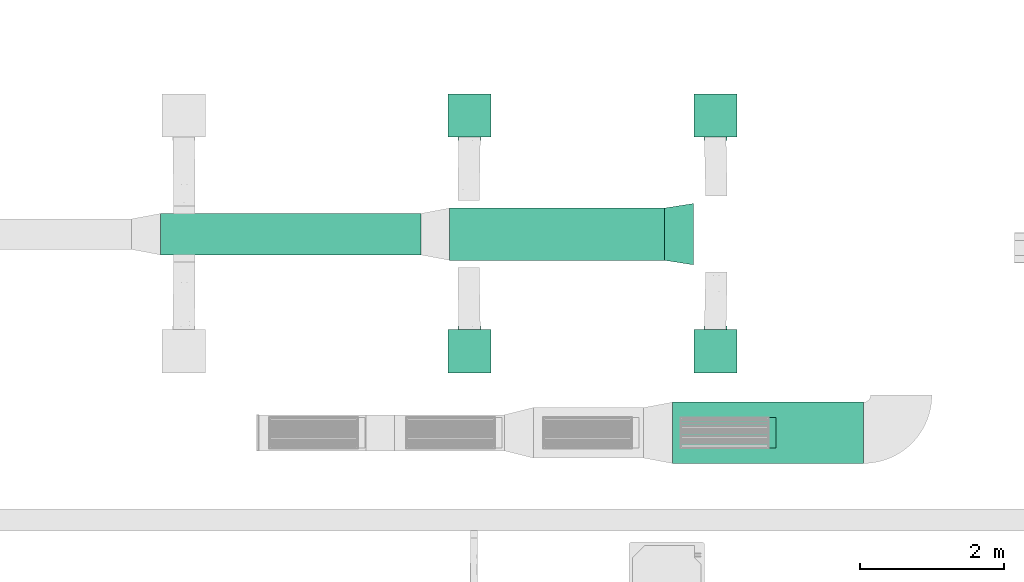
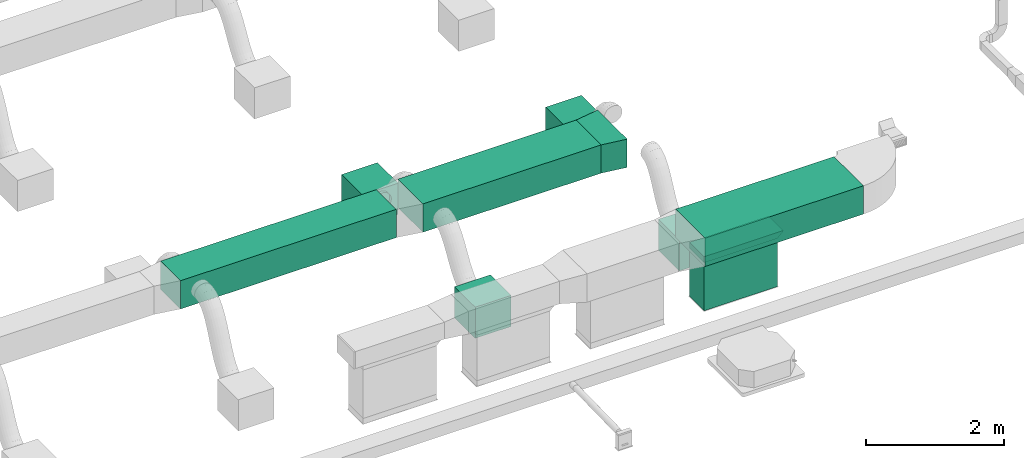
# One storey, part 6 of 60: 4 flow segments, 4 flow terminals, 2 flow fittings.
"""IFC2X3 building model written with IfcOpenShell, lengths in millimetres."""

import ifcopenshell
import ifcopenshell.guid

model = None  # the IFC model being written
_history = None  # IfcOwnerHistory: only IFC2X3 demands one
_inside = {}  # id of a spatial element -> (the spatial element, [elements in it])
_under = {}  # id of a project, library or spatial element -> (it, [spatial elements below it])
_declared = {}  # id of a project -> (the project, [libraries it declares])
_typed = {}  # id of a type object -> (the type object, [elements of that type])
_made_of = {}  # id of a material, layer set ... -> (it, [elements and type objects made of it])


def new_model(schema):
    """Start an empty IFC model of exactly this schema.

    Asked for "IFC4X3", IfcOpenShell would pick the latest addendum, in which some entities
    have other attributes; the version numbers below select the first issue.
    IFC2X3 requires an IfcOwnerHistory on every rooted entity: one is made here for all.
    """
    global model, _history
    if schema == "IFC4X3":
        model = ifcopenshell.file(schema_version=(4, 3, 0, 0))
    else:
        model = ifcopenshell.file(schema=schema)
    _inside.clear()
    _under.clear()
    _declared.clear()
    _typed.clear()
    _made_of.clear()
    _history = None
    if model.schema == "IFC2X3":
        org = make("IfcOrganization", Name="unknown")
        user = make(
            "IfcPersonAndOrganization",
            ThePerson=make("IfcPerson", FamilyName="unknown"),
            TheOrganization=org,
        )
        app = make(
            "IfcApplication",
            ApplicationDeveloper=org,
            Version="unknown",
            ApplicationFullName="unknown",
            ApplicationIdentifier="unknown",
        )
        _history = make(
            "IfcOwnerHistory",
            OwningUser=user,
            OwningApplication=app,
            ChangeAction="ADDED",
            CreationDate=0,
        )
    return model


def make(cls, **values):
    """One entity of the class cls with the attributes given. An attribute that is None is left unset."""
    return model.create_entity(
        cls, **{name: value for name, value in values.items() if value is not None}
    )


def entity(cls, *values):
    """Any entity or typed value of the class cls, its attributes in the order of the schema. None: left unset."""
    e = model.create_entity(cls)
    for i, value in enumerate(values):
        if value is not None:
            e[i] = value
    return e


def rooted(cls, **values):
    """An entity with a GlobalId (a new one), such as an element, a storey or a relation."""
    return make(cls, GlobalId=ifcopenshell.guid.new(), OwnerHistory=_history, **values)


def si_unit(unit_type, name, prefix=None):
    """IfcSIUnit, for example si_unit("LENGTHUNIT", "METRE", prefix="MILLI")."""
    return make("IfcSIUnit", UnitType=unit_type, Prefix=prefix, Name=name)


def converted_unit(unit_type, name, factor, base, dimensions=None, offset=None):
    """IfcConversionBasedUnit, such as the inch: factor (a typed value) times the base unit."""
    return make(
        "IfcConversionBasedUnit"
        if offset is None
        else "IfcConversionBasedUnitWithOffset",
        ConversionOffset=offset,
        Dimensions=None
        if dimensions is None
        else entity("IfcDimensionalExponents", *dimensions),
        UnitType=unit_type,
        Name=name,
        ConversionFactor=make(
            "IfcMeasureWithUnit", ValueComponent=factor, UnitComponent=base
        ),
    )


def derived_unit(unit_type, elements):
    """IfcDerivedUnit: a product of units, each with its exponent."""
    return make(
        "IfcDerivedUnit",
        Elements=[
            make("IfcDerivedUnitElement", Unit=unit, Exponent=power)
            for unit, power in elements
        ],
        UnitType=unit_type,
    )


def assignment(units):
    """IfcUnitAssignment: the units of a project."""
    return None if units is None else make("IfcUnitAssignment", Units=units)


def point(xyz):
    """IfcCartesianPoint."""
    return None if xyz is None else make("IfcCartesianPoint", Coordinates=xyz)


def direction(xyz):
    """IfcDirection."""
    return None if xyz is None else make("IfcDirection", DirectionRatios=xyz)


def frame(location, z_axis=None, x_axis=None):
    """IfcAxis2Placement3D, a coordinate frame: its origin and axes. An axis left out is left unset."""
    return make(
        "IfcAxis2Placement3D",
        Location=point(location),
        Axis=direction(z_axis),
        RefDirection=direction(x_axis),
    )


def frame_2d(location, x_axis=None):
    """IfcAxis2Placement2D, a coordinate frame in the plane: its origin and x axis."""
    return make(
        "IfcAxis2Placement2D", Location=point(location), RefDirection=direction(x_axis)
    )


def origin():
    """The frame at (0, 0, 0) with its axes left unset."""
    return frame((0.0, 0.0, 0.0))


def origin_2d_with_axis():
    """The frame at (0, 0) in the plane with the x axis (1, 0) written out."""
    return frame_2d((0.0, 0.0), x_axis=(1.0, 0.0))


def place(relative_to, where):
    """IfcLocalPlacement: puts the frame where relative to a parent placement (None: the world)."""
    return make(
        "IfcLocalPlacement", PlacementRelTo=relative_to, RelativePlacement=where
    )


def context(
    kind, dimensions, precision=None, world=None, true_north=None, identifier=None
):
    """IfcGeometricRepresentationContext, for example the 3D "Model" context."""
    return make(
        "IfcGeometricRepresentationContext",
        ContextIdentifier=identifier,
        ContextType=kind,
        CoordinateSpaceDimension=dimensions,
        Precision=precision,
        WorldCoordinateSystem=world,
        TrueNorth=true_north,
    )


def subcontext(parent, identifier, kind, view, scale=None):
    """IfcGeometricRepresentationSubContext, for example "Body" below "Model"."""
    return make(
        "IfcGeometricRepresentationSubContext",
        ContextIdentifier=identifier,
        ContextType=kind,
        ParentContext=parent,
        TargetScale=scale,
        TargetView=view,
    )


def project(units=None, contexts=None):
    """IfcProject with its units and contexts."""
    return rooted(
        "IfcProject",
        Name="project",
        RepresentationContexts=contexts,
        UnitsInContext=assignment(units),
    )


def spatial(cls, under=None, at=None, **own):
    """A site, building, storey or space (cls), placed at a placement, below another one or the project."""
    s = rooted(cls, ObjectPlacement=at, **own)
    if under is not None:
        _under.setdefault(under.id(), (under, []))[1].append(s)
    return s


def polyline(points):
    """IfcPolyline through the points."""
    return make("IfcPolyline", Points=[point(p) for p in points])


def profile(cls, at=None, kind="AREA", **sizes):
    """A parametric profile (cls). Its sizes go by their IFC names, for example OverallWidth=200.0."""
    return make(cls, ProfileType=kind, Position=at, **sizes)


def rectangle(**sizes):
    """IfcRectangleProfileDef."""
    return profile("IfcRectangleProfileDef", **sizes)


def outline(outer, holes=None, kind="AREA"):
    """IfcArbitraryClosedProfileDef: a profile drawn as a closed curve; with holes, ...WithVoids."""
    if holes is None:
        return make("IfcArbitraryClosedProfileDef", ProfileType=kind, OuterCurve=outer)
    return make(
        "IfcArbitraryProfileDefWithVoids",
        ProfileType=kind,
        OuterCurve=outer,
        InnerCurves=holes,
    )


def extrude(swept, where, along, depth):
    """IfcExtrudedAreaSolid: the profile swept, set in the frame where, extruded along a direction by depth."""
    return make(
        "IfcExtrudedAreaSolid",
        SweptArea=swept,
        Position=where,
        ExtrudedDirection=direction(along),
        Depth=depth,
    )


def faces_of(points, faces, orient=None, outer=None):
    """IfcFace entities. A face is a list of loops; a loop is a list of indices into points, from 0.

    orient and outer hold one flag for each loop. By default every Orientation is true, the
    first loop of a face is its IfcFaceOuterBound and the others are IfcFaceBound.
    """
    made = []
    for i, loops in enumerate(faces):
        bounds = []
        for j, loop in enumerate(loops):
            is_outer = j == 0 if outer is None else outer[i][j]
            bounds.append(
                make(
                    "IfcFaceOuterBound" if is_outer else "IfcFaceBound",
                    Bound=make("IfcPolyLoop", Polygon=[points[k] for k in loop]),
                    Orientation=True if orient is None else orient[i][j],
                )
            )
        made.append(make("IfcFace", Bounds=bounds))
    return made


def face_set(faces, orient=None, outer=None):
    """The faces of one IfcConnectedFaceSet. surface_model builds it on its shared points."""
    return ("IfcConnectedFaceSet", faces, orient, outer)


def surface_model(cls, points, shells):
    """IfcFaceBasedSurfaceModel or IfcShellBasedSurfaceModel (cls): surfaces that need not close."""
    shared = [point(p) for p in points]
    made = [make(c, CfsFaces=faces_of(shared, fs, o, b)) for c, fs, o, b in shells]
    if cls == "IfcFaceBasedSurfaceModel":
        return make(cls, FbsmFaces=made)
    return make(cls, SbsmBoundary=made)


def shape(context_of_items, identifier, shape_type, items):
    """IfcShapeRepresentation: the items that make up one representation, for example the "Body"."""
    return make(
        "IfcShapeRepresentation",
        ContextOfItems=context_of_items,
        RepresentationIdentifier=identifier,
        RepresentationType=shape_type,
        Items=items,
    )


def source(mapping_origin, context_of_items, identifier, shape_type, items):
    """IfcRepresentationMap: a shape defined once, which mapped items show again and again."""
    return make(
        "IfcRepresentationMap",
        MappingOrigin=mapping_origin,
        MappedRepresentation=shape(context_of_items, identifier, shape_type, items),
    )


def transform(
    local_origin,
    x_axis=None,
    y_axis=None,
    z_axis=None,
    scale=None,
    scale2=None,
    scale3=None,
    uniform=True,
):
    """IfcCartesianTransformationOperator3D, or its non-uniform kind. x_axis, y_axis, z_axis: its Axis1, 2, 3."""
    if uniform:
        return make(
            "IfcCartesianTransformationOperator3D",
            Axis1=direction(x_axis),
            Axis2=direction(y_axis),
            LocalOrigin=point(local_origin),
            Scale=scale,
            Axis3=direction(z_axis),
        )
    return make(
        "IfcCartesianTransformationOperator3DnonUniform",
        Axis1=direction(x_axis),
        Axis2=direction(y_axis),
        LocalOrigin=point(local_origin),
        Scale=scale,
        Axis3=direction(z_axis),
        Scale2=scale2,
        Scale3=scale3,
    )


def mapped(mapping_source, mapping_target):
    """IfcMappedItem: shows the shape of a source again, moved by a transform."""
    return make(
        "IfcMappedItem", MappingSource=mapping_source, MappingTarget=mapping_target
    )


def material(Name=None, Category=None):
    """IfcMaterial."""
    return make("IfcMaterial", Name=Name, Category=Category)


def made_of(thing, what):
    """Note that an element or type object is made of a material, layer set ...; save() writes the relation."""
    if what is not None:
        _made_of.setdefault(what.id(), (what, []))[1].append(thing)
    return thing


def type_object(cls, material=None, **own):
    """A type object (cls), such as IfcWallType, which elements share."""
    return made_of(rooted(cls, **own), material)


def type_shapes(of_type, sources):
    """Give a type object the sources (RepresentationMaps) that its elements show as mapped items."""
    of_type.RepresentationMaps = sources


def element(
    cls,
    number,
    at=None,
    inside=None,
    cuts=None,
    type_object=None,
    material=None,
    context=None,
    identifier="Body",
    shape_type=None,
    held_by="IfcProductDefinitionShape",
    body=None,
    shapes=None,
    **own,
):
    """One element of the class cls, such as IfcWall. Its Tag is "e" and its number.

    at: its placement. inside: the storey or other place that contains it. cuts: it is an
    opening in that element (IfcRelVoidsElement). A single representation is given by context,
    identifier, shape_type and body (its items); several are given by shapes. held_by: the class
    of the entity that holds the representations. save() writes the other relations.
    """
    e = rooted(cls, Tag="e%d" % number, ObjectPlacement=at, **own)
    if body is not None:
        shapes = [shape(context, identifier, shape_type, body)]
    if shapes is not None:
        e.Representation = make(held_by, Representations=shapes)
    if inside is not None:
        _inside.setdefault(inside.id(), (inside, []))[1].append(e)
    if cuts is not None:
        rooted(
            "IfcRelVoidsElement", RelatingBuildingElement=cuts, RelatedOpeningElement=e
        )
    if type_object is not None:
        _typed.setdefault(type_object.id(), (type_object, []))[1].append(e)
    return made_of(e, material)


def aggregate(whole, parts):
    """IfcRelAggregates: a whole, such as a stair, and the parts it consists of."""
    return rooted("IfcRelAggregates", RelatingObject=whole, RelatedObjects=parts)


def save(model, path):
    """Write the relations noted so far, then the file.

    IfcRelAggregates (storeys below a building ...), IfcRelContainedInSpatialStructure (elements
    in a storey), IfcRelDefinesByType, IfcRelAssociatesMaterial and IfcRelDeclares: one each for
    every whole, place, type object, material and project.
    """
    for whole, parts in _under.values():
        aggregate(whole, parts)
    for where, things in _inside.values():
        rooted(
            "IfcRelContainedInSpatialStructure",
            RelatedElements=things,
            RelatingStructure=where,
        )
    for kind, things in _typed.values():
        rooted("IfcRelDefinesByType", RelatedObjects=things, RelatingType=kind)
    for what, things in _made_of.values():
        rooted("IfcRelAssociatesMaterial", RelatedObjects=things, RelatingMaterial=what)
    for by, libraries in _declared.values():
        rooted("IfcRelDeclares", RelatingContext=by, RelatedDefinitions=libraries)
    model.write(path)


model = new_model("IFC2X3")

# Units and contexts
model_context = context("Model", 3, precision=0.01, world=origin(), true_north=direction((6.123233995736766e-17, 1.0)))
body_context = subcontext(model_context, "Body", "Model", "MODEL_VIEW")
ifc_project = project(units=[si_unit("LENGTHUNIT", "METRE", prefix="MILLI"), converted_unit("PLANEANGLEUNIT", "DEGREE", entity("IfcPlaneAngleMeasure", 0.017453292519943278), si_unit("PLANEANGLEUNIT", "RADIAN"), dimensions=[0, 0, 0, 0, 0, 0, 0]), si_unit("AREAUNIT", "SQUARE_METRE"), derived_unit("THERMALTRANSMITTANCEUNIT", [(si_unit("MASSUNIT", "GRAM", prefix="KILO"), 1), (si_unit("THERMODYNAMICTEMPERATUREUNIT", "KELVIN"), -1), (si_unit("TIMEUNIT", "SECOND"), -3)])], contexts=[model_context])

# Site, building, storey
site_placement = place(None, origin())
site = spatial("IfcSite", under=ifc_project, at=site_placement, Name="Default", CompositionType="ELEMENT")
building_placement = place(site_placement, origin())
building = spatial("IfcBuilding", under=site, at=building_placement, Name="Praça Pedro II, 1301 - Centro (Sul), Teresina - PI, 64001-100", CompositionType="ELEMENT")
storey_placement = place(building_placement, frame((0.0, 0.0, 6040.0)))
storey = spatial("IfcBuildingStorey", under=building, at=storey_placement, Name="2PAV", CompositionType="ELEMENT", Elevation=6040.0)

# Flow terminals
ifc_material = material(Name="<Unnamed>")
air_terminal_type = type_object("IfcAirTerminalType", Name="VD-HM 600:VD-HM 600", PredefinedType="NOTDEFINED", material=ifc_material)
shared_shape_1 = source(origin(), body_context, "Body", "SurfaceModel", [
    surface_model("IfcFaceBasedSurfaceModel", [(280.24999051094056, 280.0000057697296, -0.099993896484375), (-279.75000286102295, 280.0000057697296, -0.099993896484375), (-279.75000286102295, -280.0000057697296, -0.099993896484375), (280.24999051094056, -280.0000057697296, -0.099993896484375), (-300.75001101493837, 0.0, 510.50001697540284), (-300.75001101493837, -30.726726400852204, 507.4736755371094), (-300.75001101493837, 0.0, 353.0000012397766), (-300.75001101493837, -60.27264279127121, 498.51103219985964), (-300.75001101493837, -87.50230793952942, 483.9564700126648), (-300.75001101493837, -111.3693195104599, 464.3693298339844), (-300.75001101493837, -130.95645968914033, 440.5023273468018), (-300.75001101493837, -145.51102187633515, 413.272630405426), (-300.75001101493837, -154.47367429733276, 383.7267230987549), (-300.75001101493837, -157.4999975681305, 353.0000012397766), (-300.75001101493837, -154.47367429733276, 322.27327938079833), (-300.75001101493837, -145.51102187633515, 292.7273539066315), (-300.75001101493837, -130.95645968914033, 265.4976933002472), (-300.75001101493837, -111.3693195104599, 241.63069081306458), (-300.75001101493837, -87.50230793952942, 222.04353246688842), (-300.75001101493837, -60.27264279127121, 207.4889702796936), (-300.75001101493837, -30.726726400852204, 198.52632694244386), (-300.75001101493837, 0.0, 195.5000036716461), (-300.75001101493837, 30.726726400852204, 198.52632694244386), (-300.75001101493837, 60.27264279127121, 207.4889702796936), (-300.75001101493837, 87.50230793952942, 222.04353246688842), (-300.75001101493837, 111.3693195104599, 241.63069081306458), (-300.75001101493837, 130.95645968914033, 265.4976933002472), (-300.75001101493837, 145.51102187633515, 292.7273539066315), (-300.75001101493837, 154.47367429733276, 322.27327938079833), (-300.75001101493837, 157.4999975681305, 353.0000012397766), (-300.75001101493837, 154.47367429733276, 383.7267230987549), (-300.75001101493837, 145.51102187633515, 413.272630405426), (-300.75001101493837, 130.95645968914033, 440.5023273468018), (-300.75001101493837, 111.3693195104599, 464.3693298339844), (-300.75001101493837, 87.50230793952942, 483.9564700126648), (-300.75001101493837, 60.27264279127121, 498.51103219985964), (-300.75001101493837, 30.726726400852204, 507.4736755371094), (300.24998703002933, 300.0000022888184, 550.000004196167), (300.24998703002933, 300.0000022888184, 0.0), (-299.7499993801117, 300.0000022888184, 0.0), (-299.7499993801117, 300.0000022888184, 550.000004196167), (300.24998703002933, -300.0000022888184, 550.000004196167), (300.24998703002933, -300.0000022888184, 0.0), (-299.7499993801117, -300.0000022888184, 550.000004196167), (-299.7499993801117, -300.0000022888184, 0.0), (280.24999051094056, 280.0000057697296, -0.099993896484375), (10.250000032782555, 280.0000057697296, -0.099993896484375), (10.250000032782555, 256.6173123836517, -13.600005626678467), (280.24999051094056, 256.6173123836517, -13.600005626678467), (280.24999051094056, 253.0, -0.099993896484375), (10.250000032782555, 253.0, -0.099993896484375), (10.250000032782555, 229.61732525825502, -13.600005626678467), (280.24999051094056, 229.61732525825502, -13.600005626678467), (280.24999051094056, 225.99999518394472, -0.099993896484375), (10.250000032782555, 225.99999518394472, -0.099993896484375), (10.250000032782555, 202.61731996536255, -13.600005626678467), (280.24999051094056, 202.61731996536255, -13.600005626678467), (280.24999051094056, 199.000008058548, -0.099993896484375), (10.250000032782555, 199.000008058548, -0.099993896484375), (10.250000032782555, 175.6173146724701, -13.600005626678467), (280.24999051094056, 175.6173146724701, -13.600005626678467), (280.24999051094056, 172.00000276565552, -0.099993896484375), (10.250000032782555, 172.00000276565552, -0.099993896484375), (10.250000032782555, 148.61731846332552, -13.600005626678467), (280.24999051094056, 148.61731846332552, -13.600005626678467), (280.24999051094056, 144.99999747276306, -0.099993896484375), (10.250000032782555, 144.99999747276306, -0.099993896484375), (10.250000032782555, 121.61731317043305, -13.600005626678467), (280.24999051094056, 121.61731317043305, -13.600005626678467), (280.24999051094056, 118.00000126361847, -0.099993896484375), (10.250000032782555, 118.00000126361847, -0.099993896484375), (280.24999051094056, 94.61731696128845, -13.600005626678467), (10.250000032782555, 94.61731696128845, -13.600005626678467), (280.24999051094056, 90.99999597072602, -0.099993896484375), (10.250000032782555, 90.99999597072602, -0.099993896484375), (280.24999051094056, 67.61731621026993, -13.600005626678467), (10.250000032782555, 67.61731621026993, -13.600005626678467), (280.24999051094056, 63.99999976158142, -0.099993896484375), (10.250000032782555, 63.99999976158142, -0.099993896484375), (10.250000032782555, 40.61731545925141, -13.600005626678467), (280.24999051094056, 40.61731545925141, -13.600005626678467), (280.24999051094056, 36.999999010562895, -0.099993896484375), (10.250000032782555, 36.999999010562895, -0.099993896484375), (10.250000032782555, 13.617316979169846, -13.600005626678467), (280.24999051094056, 13.617316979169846, -13.600005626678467), (-9.74999989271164, -256.6173123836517, -13.600005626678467), (-279.75000286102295, -256.6173123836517, -13.600005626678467), (-279.75000286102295, -280.0000057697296, -0.099993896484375), (-9.74999989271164, -280.0000057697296, -0.099993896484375), (-9.74999989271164, -229.61732525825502, -13.600005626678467), (-279.75000286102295, -229.61732525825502, -13.600005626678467), (-279.75000286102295, -253.0, -0.099993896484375), (-9.74999989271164, -253.0, -0.099993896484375), (-9.74999989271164, -202.61731996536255, -13.600005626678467), (-279.75000286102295, -202.61731996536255, -13.600005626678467), (-279.75000286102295, -225.99999518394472, -0.099993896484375), (-9.74999989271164, -225.99999518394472, -0.099993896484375), (-9.74999989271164, -175.6173146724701, -13.600005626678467), (-279.75000286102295, -175.6173146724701, -13.600005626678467), (-279.75000286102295, -199.000008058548, -0.099993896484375), (-9.74999989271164, -199.000008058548, -0.099993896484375), (-9.74999989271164, -148.61731846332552, -13.600005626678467), (-279.75000286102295, -148.61731846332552, -13.600005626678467), (-279.75000286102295, -172.00000276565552, -0.099993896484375), (-9.74999989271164, -172.00000276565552, -0.099993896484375), (-9.74999989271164, -121.61731317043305, -13.600005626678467), (-279.75000286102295, -121.61731317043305, -13.600005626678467), (-279.75000286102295, -144.99999747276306, -0.099993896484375), (-9.74999989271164, -144.99999747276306, -0.099993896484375), (-9.74999989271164, -94.61731696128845, -13.600005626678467), (-279.75000286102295, -94.61731696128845, -13.600005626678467), (-279.75000286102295, -118.00000126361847, -0.099993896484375), (-9.74999989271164, -118.00000126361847, -0.099993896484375), (-9.74999989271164, -67.61731621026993, -13.600005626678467), (-279.75000286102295, -67.61731621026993, -13.600005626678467), (-279.75000286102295, -90.99999597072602, -0.099993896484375), (-9.74999989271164, -90.99999597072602, -0.099993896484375), (-9.74999989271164, -40.61731545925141, -13.600005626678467), (-279.75000286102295, -40.61731545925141, -13.600005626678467), (-279.75000286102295, -63.99999976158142, -0.099993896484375), (-9.74999989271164, -63.99999976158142, -0.099993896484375), (-9.74999989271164, -13.617316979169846, -13.600005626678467), (-279.75000286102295, -13.617316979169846, -13.600005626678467), (-279.75000286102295, -36.999999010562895, -0.099993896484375), (-9.74999989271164, -36.999999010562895, -0.099993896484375), (280.24999051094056, -10.000000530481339, -0.099993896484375), (256.100465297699, -10.000000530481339, -12.174765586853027), (256.100465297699, -280.0000057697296, -12.174765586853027), (280.24999051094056, -280.0000057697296, -0.099993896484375), (253.25000338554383, -10.000000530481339, -0.099993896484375), (229.10046000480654, -10.000000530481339, -12.174765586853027), (229.10046000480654, -280.0000057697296, -12.174765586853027), (253.25000338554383, -280.0000057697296, -0.099993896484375), (226.24999809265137, -10.000000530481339, -0.099993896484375), (202.10045471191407, -10.000000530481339, -12.174765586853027), (202.10045471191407, -280.0000057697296, -12.174765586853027), (226.24999809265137, -280.0000057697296, -0.099993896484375), (199.24999279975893, -10.000000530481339, -0.099993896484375), (175.10046758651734, -10.000000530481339, -12.174765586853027), (175.10046758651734, -280.0000057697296, -12.174765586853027), (199.24999279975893, -280.0000057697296, -0.099993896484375), (172.24998750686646, -10.000000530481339, -0.099993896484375), (148.10046229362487, -10.000000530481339, -12.174765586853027), (148.10046229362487, -280.0000057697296, -12.174765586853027), (172.24998750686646, -280.0000057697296, -0.099993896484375), (145.25000038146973, -10.000000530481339, -0.099993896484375), (121.10046608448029, -10.000000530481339, -12.174765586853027), (121.10046608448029, -280.0000057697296, -12.174765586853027), (145.25000038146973, -280.0000057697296, -0.099993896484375), (118.24999508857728, -10.000000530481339, -0.099993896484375), (94.10046079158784, -10.000000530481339, -12.174765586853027), (94.10046079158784, -280.0000057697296, -12.174765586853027), (118.24999508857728, -280.0000057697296, -0.099993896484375), (91.24999887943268, -10.000000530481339, -0.099993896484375), (67.10046912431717, -10.000000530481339, -12.174765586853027), (67.10046912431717, -280.0000057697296, -12.174765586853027), (91.24999887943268, -280.0000057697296, -0.099993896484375), (64.24999812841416, -10.000000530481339, -0.099993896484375), (40.100468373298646, -10.000000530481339, -12.174765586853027), (40.100468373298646, -280.0000057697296, -12.174765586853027), (64.24999812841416, -280.0000057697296, -0.099993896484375), (37.250001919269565, -10.000000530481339, -0.099993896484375), (13.100466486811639, -10.000000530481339, -12.174765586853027), (13.100466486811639, -280.0000057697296, -12.174765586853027), (37.250001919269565, -280.0000057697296, -0.099993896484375), (-279.75000286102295, 10.000000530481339, -0.099993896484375), (-255.6004776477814, 10.000000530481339, -12.174765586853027), (-255.6004776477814, 280.0000057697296, -12.174765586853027), (-279.75000286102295, 280.0000057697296, -0.099993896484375), (-252.7499975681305, 10.000000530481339, -0.099993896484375), (-228.60047235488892, 10.000000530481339, -12.174765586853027), (-228.60047235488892, 280.0000057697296, -12.174765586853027), (-252.7499975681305, 280.0000057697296, -0.099993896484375), (-225.75001044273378, 10.000000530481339, -0.099993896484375), (-201.60046706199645, 10.000000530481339, -12.174765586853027), (-201.60046706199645, 280.0000057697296, -12.174765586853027), (-225.75001044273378, 280.0000057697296, -0.099993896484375), (-198.75000514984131, 10.000000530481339, -0.099993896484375), (-174.60046176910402, 10.000000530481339, -12.174765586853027), (-174.60046176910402, 280.0000057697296, -12.174765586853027), (-198.75000514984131, 280.0000057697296, -0.099993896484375), (-171.74999985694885, 10.000000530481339, -0.099993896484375), (-147.60046555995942, 10.000000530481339, -12.174765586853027), (-147.60046555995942, 280.0000057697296, -12.174765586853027), (-171.74999985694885, 280.0000057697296, -0.099993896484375), (-144.75000364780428, 10.000000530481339, -0.099993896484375), (-120.60046935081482, 10.000000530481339, -12.174765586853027), (-120.60046935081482, 280.0000057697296, -12.174765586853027), (-144.75000364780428, 280.0000057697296, -0.099993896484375), (-117.75000743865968, 10.000000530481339, -0.099993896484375), (-93.60046405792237, 10.000000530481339, -12.174765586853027), (-93.60046405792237, 280.0000057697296, -12.174765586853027), (-117.75000743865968, 280.0000057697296, -0.099993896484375), (-90.75000214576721, 10.000000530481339, -0.099993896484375), (-66.60046330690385, 10.000000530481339, -12.174765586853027), (-66.60046330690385, 280.0000057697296, -12.174765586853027), (-90.75000214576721, 280.0000057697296, -0.099993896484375), (-63.75000139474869, 10.000000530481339, -0.099993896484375), (-39.60046709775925, 10.000000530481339, -12.174765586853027), (-39.60046709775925, 280.0000057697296, -12.174765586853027), (-63.75000139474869, 280.0000057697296, -0.099993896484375), (-36.75000064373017, 10.000000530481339, -0.099993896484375), (-12.600466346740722, 10.000000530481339, -12.174765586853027), (-12.600466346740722, 280.0000057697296, -12.174765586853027), (-36.75000064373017, 280.0000057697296, -0.099993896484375), (-299.7499993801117, 0.0, 510.50001697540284), (-299.7499993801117, 30.726726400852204, 507.4736755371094), (-347.74999465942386, 30.726726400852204, 507.4736755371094), (-347.74999465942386, 0.0, 510.50001697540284), (-299.7499993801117, 60.27264279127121, 498.51103219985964), (-347.74999465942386, 60.27264279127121, 498.51103219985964), (-299.7499993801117, 87.50230793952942, 483.9564700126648), (-347.74999465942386, 87.50230793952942, 483.9564700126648), (-299.7499993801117, 111.3693195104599, 464.3693298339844), (-347.74999465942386, 111.3693195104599, 464.3693298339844), (-299.7499993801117, 130.95645968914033, 440.5023273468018), (-347.74999465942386, 130.95645968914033, 440.5023273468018), (-299.7499993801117, 145.51102187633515, 413.272630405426), (-347.74999465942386, 145.51102187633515, 413.272630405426), (-299.7499993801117, 154.47367429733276, 383.7267230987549), (-347.74999465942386, 154.47367429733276, 383.7267230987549), (-299.7499993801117, 157.4999975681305, 353.0000012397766), (-347.74999465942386, 157.4999975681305, 353.0000012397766), (-299.7499993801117, 154.47367429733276, 322.27327938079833), (-347.74999465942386, 154.47367429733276, 322.27327938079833), (-299.7499993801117, 145.51102187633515, 292.7273539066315), (-347.74999465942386, 145.51102187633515, 292.7273539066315), (-299.7499993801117, 130.95645968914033, 265.4976933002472), (-347.74999465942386, 130.95645968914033, 265.4976933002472), (-299.7499993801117, 111.3693195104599, 241.63069081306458), (-347.74999465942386, 111.3693195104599, 241.63069081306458), (-299.7499993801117, 87.50230793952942, 222.04353246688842), (-347.74999465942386, 87.50230793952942, 222.04353246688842), (-299.7499993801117, 60.27264279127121, 207.4889702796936), (-347.74999465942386, 60.27264279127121, 207.4889702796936), (-299.7499993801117, 30.726726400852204, 198.52632694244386), (-347.74999465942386, 30.726726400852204, 198.52632694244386), (-299.7499993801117, 0.0, 195.5000036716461), (-347.74999465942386, 0.0, 195.5000036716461), (-299.7499993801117, -30.726726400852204, 198.52632694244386), (-347.74999465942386, -30.726726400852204, 198.52632694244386), (-299.7499993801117, -60.27264279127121, 207.4889702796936), (-347.74999465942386, -60.27264279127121, 207.4889702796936), (-299.7499993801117, -87.50230793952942, 222.04353246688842), (-347.74999465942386, -87.50230793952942, 222.04353246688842), (-299.7499993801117, -111.3693195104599, 241.63069081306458), (-347.74999465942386, -111.3693195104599, 241.63069081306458), (-299.7499993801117, -130.95645968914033, 265.4976933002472), (-347.74999465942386, -130.95645968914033, 265.4976933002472), (-299.7499993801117, -145.51102187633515, 292.7273539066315), (-347.74999465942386, -145.51102187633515, 292.7273539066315), (-299.7499993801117, -154.47367429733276, 322.27327938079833), (-347.74999465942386, -154.47367429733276, 322.27327938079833), (-299.7499993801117, -157.4999975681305, 353.0000012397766), (-347.74999465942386, -157.4999975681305, 353.0000012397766), (-299.7499993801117, -154.47367429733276, 383.7267230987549), (-347.74999465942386, -154.47367429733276, 383.7267230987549), (-299.7499993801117, -145.51102187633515, 413.272630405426), (-347.74999465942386, -145.51102187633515, 413.272630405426), (-299.7499993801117, -130.95645968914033, 440.5023273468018), (-347.74999465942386, -130.95645968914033, 440.5023273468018), (-299.7499993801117, -111.3693195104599, 464.3693298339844), (-347.74999465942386, -111.3693195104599, 464.3693298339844), (-299.7499993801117, -87.50230793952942, 483.9564700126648), (-347.74999465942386, -87.50230793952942, 483.9564700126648), (-299.7499993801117, -60.27264279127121, 498.51103219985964), (-347.74999465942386, -60.27264279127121, 498.51103219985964), (-299.7499993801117, -30.726726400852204, 507.4736755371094), (-347.74999465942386, -30.726726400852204, 507.4736755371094), (-279.75000286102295, 10.000000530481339, -0.20000596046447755), (-279.75000286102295, -10.000000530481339, -0.20000596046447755), (280.24999051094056, -10.000000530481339, -0.20000596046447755), (280.24999051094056, 10.000000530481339, -0.20000596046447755), (10.250000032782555, 280.0000057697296, -0.20000596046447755), (-9.74999989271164, 280.0000057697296, -0.20000596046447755), (-9.74999989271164, -280.0000057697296, -0.20000596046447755), (10.250000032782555, -280.0000057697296, -0.20000596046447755)], [face_set([[[0, 1, 2]], [[0, 2, 3]], [[4, 5, 6]], [[5, 7, 6]], [[7, 8, 6]], [[8, 9, 6]], [[9, 10, 6]], [[10, 11, 6]], [[11, 12, 6]], [[12, 13, 6]], [[13, 14, 6]], [[14, 15, 6]], [[15, 16, 6]], [[16, 17, 6]], [[17, 18, 6]], [[18, 19, 6]], [[19, 20, 6]], [[20, 21, 6]], [[21, 22, 6]], [[22, 23, 6]], [[23, 24, 6]], [[24, 25, 6]], [[25, 26, 6]], [[26, 27, 6]], [[27, 28, 6]], [[28, 29, 6]], [[29, 30, 6]], [[30, 31, 6]], [[31, 32, 6]], [[32, 33, 6]], [[33, 34, 6]], [[34, 35, 6]], [[35, 36, 6]], [[36, 4, 6]]]), face_set([[[37, 38, 39]], [[37, 39, 40]], [[41, 42, 38]], [[41, 38, 37]], [[43, 44, 42]], [[43, 42, 41]], [[40, 39, 44]], [[40, 44, 43]], [[43, 41, 37]], [[43, 37, 40]], [[44, 42, 38]], [[44, 38, 39]], [[45, 46, 47]], [[45, 47, 48]], [[49, 50, 51]], [[49, 51, 52]], [[53, 54, 55]], [[53, 55, 56]], [[57, 58, 59]], [[57, 59, 60]], [[61, 62, 63]], [[61, 63, 64]], [[65, 66, 67]], [[65, 67, 68]], [[69, 70, 71]], [[70, 72, 71]], [[73, 74, 75]], [[74, 76, 75]], [[77, 78, 79]], [[77, 79, 80]], [[81, 82, 83]], [[81, 83, 84]], [[85, 86, 87]], [[85, 87, 88]], [[89, 90, 91]], [[89, 91, 92]], [[93, 94, 95]], [[93, 95, 96]], [[97, 98, 99]], [[97, 99, 100]], [[101, 102, 103]], [[101, 103, 104]], [[105, 106, 107]], [[105, 107, 108]], [[109, 110, 111]], [[109, 111, 112]], [[113, 114, 115]], [[113, 115, 116]], [[117, 118, 119]], [[117, 119, 120]], [[121, 122, 123]], [[121, 123, 124]], [[125, 126, 127]], [[125, 127, 128]], [[129, 130, 131]], [[129, 131, 132]], [[133, 134, 135]], [[133, 135, 136]], [[137, 138, 139]], [[137, 139, 140]], [[141, 142, 143]], [[141, 143, 144]], [[145, 146, 147]], [[145, 147, 148]], [[149, 150, 151]], [[149, 151, 152]], [[153, 154, 155]], [[153, 155, 156]], [[157, 158, 159]], [[157, 159, 160]], [[161, 162, 163]], [[161, 163, 164]], [[165, 166, 167]], [[165, 167, 168]], [[169, 170, 171]], [[169, 171, 172]], [[173, 174, 175]], [[173, 175, 176]], [[177, 178, 179]], [[177, 179, 180]], [[181, 182, 183]], [[181, 183, 184]], [[185, 186, 187]], [[185, 187, 188]], [[189, 190, 191]], [[189, 191, 192]], [[193, 194, 195]], [[193, 195, 196]], [[197, 198, 199]], [[197, 199, 200]], [[201, 202, 203]], [[201, 203, 204]], [[205, 206, 207]], [[205, 207, 208]], [[206, 209, 210]], [[206, 210, 207]], [[209, 211, 212]], [[209, 212, 210]], [[211, 213, 214]], [[211, 214, 212]], [[213, 215, 216]], [[213, 216, 214]], [[215, 217, 218]], [[215, 218, 216]], [[217, 219, 220]], [[217, 220, 218]], [[219, 221, 222]], [[219, 222, 220]], [[221, 223, 224]], [[221, 224, 222]], [[223, 225, 226]], [[223, 226, 224]], [[225, 227, 228]], [[225, 228, 226]], [[227, 229, 230]], [[227, 230, 228]], [[229, 231, 232]], [[229, 232, 230]], [[231, 233, 234]], [[231, 234, 232]], [[233, 235, 236]], [[233, 236, 234]], [[235, 237, 238]], [[235, 238, 236]], [[237, 239, 240]], [[237, 240, 238]], [[239, 241, 242]], [[239, 242, 240]], [[241, 243, 244]], [[241, 244, 242]], [[243, 245, 246]], [[243, 246, 244]], [[245, 247, 248]], [[245, 248, 246]], [[247, 249, 250]], [[247, 250, 248]], [[249, 251, 252]], [[249, 252, 250]], [[251, 253, 254]], [[251, 254, 252]], [[253, 255, 256]], [[253, 256, 254]], [[255, 257, 258]], [[255, 258, 256]], [[257, 259, 260]], [[257, 260, 258]], [[259, 261, 262]], [[259, 262, 260]], [[261, 263, 264]], [[261, 264, 262]], [[263, 265, 266]], [[263, 266, 264]], [[265, 267, 268]], [[265, 268, 266]], [[267, 205, 208]], [[267, 208, 268]]]), face_set([[[269, 270, 271]], [[269, 271, 272]], [[273, 274, 275]], [[273, 275, 276]]])]),
])
type_shapes(air_terminal_type, [shared_shape_1])
for number, where, z_axis, x_axis in (
    (1, (26512.657700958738, -66280.67492450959, 2310.0), (0.0, 0.0, 1.0), (0.0, -1.0, 0.0)),
    (2, (29923.32600857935, -66280.67492450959, 2306.2941035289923), (0.0, 0.0, 1.0), (0.0, -1.0, 0.0)),
    (3, (26512.657700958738, -63012.16694942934, 2310.0), (0.0, 0.0, 1.0), (0.0, 1.0, 0.0)),
    (4, (29923.32600857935, -63012.16694942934, 2306.2941035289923), (0.0, 0.0, 1.0), (0.0, 1.0, 0.0)),
):
    element("IfcFlowTerminal", number, at=place(storey_placement, frame(where, z_axis=z_axis, x_axis=x_axis)), inside=storey, type_object=air_terminal_type, material=ifc_material, Name="VD-HM 600:VD-HM 600", ObjectType="VD-HM 600:VD-HM 600", context=body_context, shape_type="MappedRepresentation", body=[
        mapped(shared_shape_1, transform((0.0, 0.0, 0.0), scale=1.0)),
    ])

# Flow segments
duct_segment_type_1 = type_object("IfcDuctSegmentType", Name="Duto retangular:Raios cotovelos / tês", PredefinedType="NOTDEFINED")
flow_segment_1_placement = place(storey_placement, origin())
element("IfcFlowSegment", 5, at=flow_segment_1_placement, inside=storey, type_object=duct_segment_type_1, Name="Duto retangular:Raios cotovelos / tês", ObjectType="Duto retangular:Raios cotovelos / tês", context=body_context, shape_type="SweptSolid", body=[
    extrude(rectangle(XDim=3608.533236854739, YDim=574.9999999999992, at=frame_2d((-2.1600499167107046e-12, -4.320099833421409e-12), x_axis=(1.0, 0.0))), frame((24033.120530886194, -64657.40803541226, 3230.0)), (0.0, 0.0, 1.0), 499.999999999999),
])
flow_segment_2_placement = place(storey_placement, origin())
element("IfcFlowSegment", 6, at=flow_segment_2_placement, inside=storey, type_object=duct_segment_type_1, Name="Duto retangular:Raios cotovelos / tês", ObjectType="Duto retangular:Raios cotovelos / tês", context=body_context, shape_type="SweptSolid", body=[
    extrude(rectangle(XDim=2980.00000000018, YDim=724.9999999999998, at=frame_2d((0.0, -4.320099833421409e-12), x_axis=(1.0, 0.0))), frame((27727.38714931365, -64657.40803541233, 3230.0)), (0.0, 0.0, 1.0), 500.00000000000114),
])
duct_segment_type_2 = type_object("IfcDuctSegmentType", Name="Duto retangular:Raios cotovelos / torneiras", PredefinedType="NOTDEFINED")
flow_segment_3_placement = place(storey_placement, origin())
element("IfcFlowSegment", 7, at=flow_segment_3_placement, inside=storey, type_object=duct_segment_type_2, Name="Duto retangular:Raios cotovelos / torneiras", ObjectType="Duto retangular:Raios cotovelos / torneiras", context=body_context, shape_type="SweptSolid", body=[
    extrude(rectangle(XDim=2648.605477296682, YDim=849.9999999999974, at=origin_2d_with_axis()), frame((30652.018332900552, -67411.94163590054, 3250.0)), (0.0, 0.0, 1.0), 500.00000000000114),
])
flow_segment_4_placement = place(storey_placement, origin())
element("IfcFlowSegment", 8, at=flow_segment_4_placement, inside=storey, type_object=duct_segment_type_2, Name="Duto retangular:Raios cotovelos / torneiras", ObjectType="Duto retangular:Raios cotovelos / torneiras", context=body_context, shape_type="SweptSolid", body=[
    extrude(rectangle(XDim=425.00000000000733, YDim=1224.9999999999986, at=frame_2d((-8.668621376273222e-12, 0.0), x_axis=(1.0, 0.0))), frame((30049.517499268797, -67411.94163590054, 2300.0), z_axis=(0.0, 0.0, 1.0), x_axis=(0.0, -1.0, 0.0)), (0.0, 0.0, 1.0), 849.9999999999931),
])

# Flow fittings
duct_fitting_type_1 = type_object("IfcDuctFittingType", Name="M_Rectangular Tap - Beveled:Standard", PredefinedType="NOTDEFINED", material=ifc_material)
shared_shape_2 = source(origin(), body_context, "Body", "SweptSolid", [
    extrude(outline(polyline([(-775.0, -62.438400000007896), (450.0, -62.438400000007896), (550.0, 37.56159999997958), (550.0, 43.6576000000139), (-775.0, 43.65760000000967), (-775.0, -62.438400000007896)])), frame((37.56159999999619, 162.50000000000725, -212.49999999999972), z_axis=(0.0, 0.0, 1.0), x_axis=(0.0, 1.0, 0.0)), (0.0, 0.0, 1.0), 424.99999999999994),
])
type_shapes(duct_fitting_type_1, [shared_shape_2])
flow_fitting_1_placement = place(storey_placement, frame((30049.51749926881, -67411.94163590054, 3250.0), z_axis=(0.0, -1.0, 0.0), x_axis=(0.0, 0.0, -1.0)))
element("IfcFlowFitting", 9, at=flow_fitting_1_placement, inside=storey, type_object=duct_fitting_type_1, material=ifc_material, Name="M_Rectangular Tap - Beveled:Standard", ObjectType="M_Rectangular Tap - Beveled:Standard", context=body_context, shape_type="MappedRepresentation", body=[
    mapped(shared_shape_2, transform((0.0, 0.0, 0.0), scale=1.0)),
])
duct_fitting_type_2 = type_object("IfcDuctFittingType", Name="M_Rectangular Transition - L:400 mm (L)", PredefinedType="NOTDEFINED", material=ifc_material)
shared_shape_3 = source(origin(), body_context, "Body", "SweptSolid", [
    extrude(outline(polyline([(-141.64078765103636, -389.02973828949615), (263.21258086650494, -389.02973828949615), (131.99223263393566, 450.78049039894), (-253.56402584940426, 327.2789861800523), (-141.64078765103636, -389.02973828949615)])), frame((200.0, 0.0, -250.0), z_axis=(0.0, 0.0, 1.0), x_axis=(0.9880120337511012, -0.1543768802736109, 0.0)), (0.0, 0.0, 1.0), 500.00000000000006),
])
type_shapes(duct_fitting_type_2, [shared_shape_3])
flow_fitting_2_placement = place(storey_placement, frame((29217.38714931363, -64657.40803541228, 3480.0)))
element("IfcFlowFitting", 10, at=flow_fitting_2_placement, inside=storey, type_object=duct_fitting_type_2, material=ifc_material, Name="M_Rectangular Transition - L:400 mm (L)", ObjectType="M_Rectangular Transition - L:400 mm (L)", context=body_context, shape_type="MappedRepresentation", body=[
    mapped(shared_shape_3, transform((0.0, 0.0, 0.0), scale=1.0)),
])

save(model, "model.ifc")
